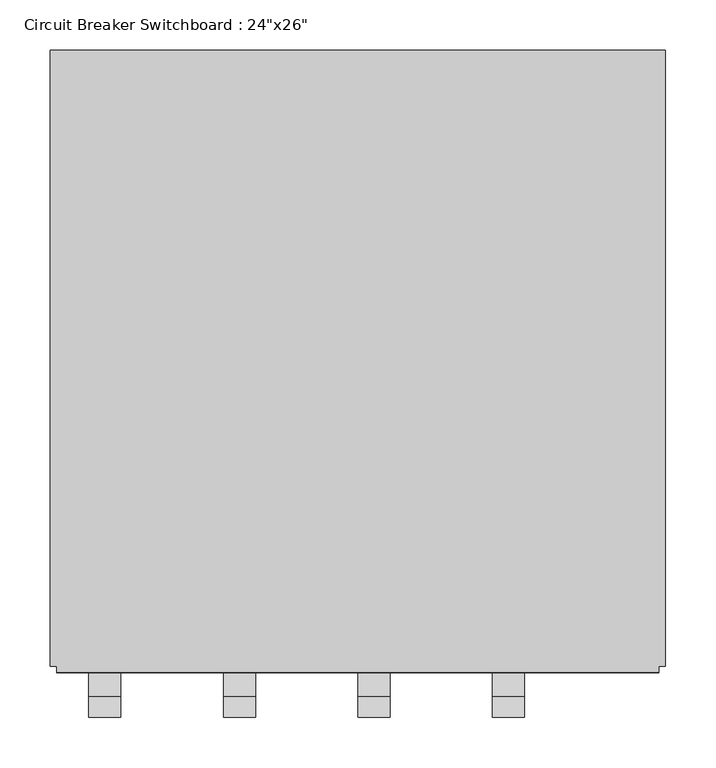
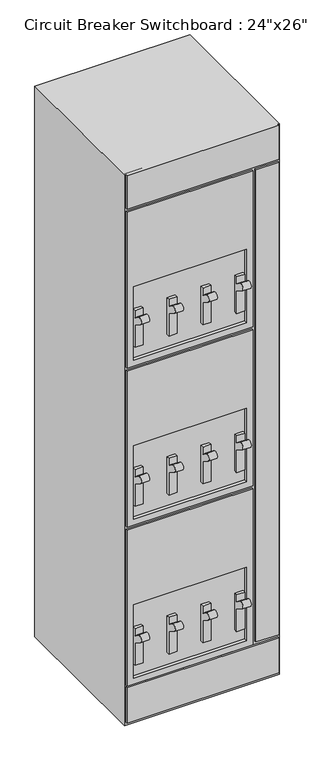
"""IFC4 building model written with IfcOpenShell, lengths in millimetres: proxy geometry."""

from ifc_helpers import new_model, si_unit, point, frame, frame_2d, origin, origin_with_axes, place, context, project, spatial, polyline, circle_curve, trimmed, segment, composite_curve, outline, extrude, faceted_brep, source, transform, mapped, element, save


def proxy_5f9e3781(model_context):
    return source(origin(), model_context, "Body", "SolidModel", [
        extrude(outline(composite_curve([segment(polyline([(-639.9115662, 381.1284675), (-616.1854499, 365.125), (-616.1854499, 393.7), (-603.4854499, 393.7), (-603.4854499, 241.3), (-616.1854499, 241.3), (-616.1854499, 333.375), (-654.6306098, 359.3065878)]), True, "CONTINUOUS"), segment(trimmed(circle_curve(frame_2d((-647.271088, 370.2175277)), 13.1609715), [point((-654.6306098, 359.3065878))], [point((-639.9115662, 381.1284675))], False, "CARTESIAN"), True, "CONTINUOUS")], self_intersect=False)), frame((133.35, 0.0, 0.0), z_axis=(1.0, 0.0, 0.0), x_axis=(0.0, 1.0, 0.0)), (0.0, 0.0, 1.0), 31.75),
        extrude(outline(composite_curve([segment(polyline([(-639.9115662, 381.1284675), (-616.1854499, 365.125), (-616.1854499, 393.7), (-603.4854499, 393.7), (-603.4854499, 241.3), (-616.1854499, 241.3), (-616.1854499, 333.375), (-654.6306098, 359.3065878)]), True, "CONTINUOUS"), segment(trimmed(circle_curve(frame_2d((-647.271088, 370.2175277)), 13.1609715), [point((-654.6306098, 359.3065878))], [point((-639.9115662, 381.1284675))], False, "CARTESIAN"), True, "CONTINUOUS")], self_intersect=False)), frame((0.0, 0.0, 0.0), z_axis=(1.0, 0.0, 0.0), x_axis=(0.0, 1.0, 0.0)), (0.0, 0.0, 1.0), 31.75),
        extrude(outline(composite_curve([segment(polyline([(-639.9115662, 381.1284675), (-616.1854499, 365.125), (-616.1854499, 393.7), (-603.4854499, 393.7), (-603.4854499, 241.3), (-616.1854499, 241.3), (-616.1854499, 333.375), (-654.6306098, 359.3065878)]), True, "CONTINUOUS"), segment(trimmed(circle_curve(frame_2d((-647.271088, 370.2175277)), 13.1609715), [point((-654.6306098, 359.3065878))], [point((-639.9115662, 381.1284675))], False, "CARTESIAN"), True, "CONTINUOUS")], self_intersect=False)), frame((-133.35, 0.0, 0.0), z_axis=(1.0, 0.0, 0.0), x_axis=(0.0, 1.0, 0.0)), (0.0, 0.0, 1.0), 31.75),
        extrude(outline(composite_curve([segment(polyline([(-639.9115662, 381.1284675), (-616.1854499, 365.125), (-616.1854499, 393.7), (-603.4854499, 393.7), (-603.4854499, 241.3), (-616.1854499, 241.3), (-616.1854499, 333.375), (-654.6306098, 359.3065878)]), True, "CONTINUOUS"), segment(trimmed(circle_curve(frame_2d((-647.271088, 370.2175277)), 13.1609715), [point((-654.6306098, 359.3065878))], [point((-639.9115662, 381.1284675))], False, "CARTESIAN"), True, "CONTINUOUS")], self_intersect=False)), frame((-266.7, 0.0, 0.0), z_axis=(1.0, 0.0, 0.0), x_axis=(0.0, 1.0, 0.0)), (0.0, 0.0, 1.0), 31.75),
        extrude(outline(composite_curve([segment(polyline([(-639.9115662, 1041.5284675), (-616.1854499, 1025.525), (-616.1854499, 1054.1), (-603.4854499, 1054.1), (-603.4854499, 901.7), (-616.1854499, 901.7), (-616.1854499, 993.775), (-654.6306098, 1019.7065878)]), True, "CONTINUOUS"), segment(trimmed(circle_curve(frame_2d((-647.271088, 1030.6175277)), 13.1609715), [point((-654.6306098, 1019.7065878))], [point((-639.9115662, 1041.5284675))], False, "CARTESIAN"), True, "CONTINUOUS")], self_intersect=False)), frame((133.35, 0.0, 0.0), z_axis=(1.0, 0.0, 0.0), x_axis=(0.0, 1.0, 0.0)), (0.0, 0.0, 1.0), 31.75),
        extrude(outline(composite_curve([segment(polyline([(-639.9115662, 1041.5284675), (-616.1854499, 1025.525), (-616.1854499, 1054.1), (-603.4854499, 1054.1), (-603.4854499, 901.7), (-616.1854499, 901.7), (-616.1854499, 993.775), (-654.6306098, 1019.7065878)]), True, "CONTINUOUS"), segment(trimmed(circle_curve(frame_2d((-647.271088, 1030.6175277)), 13.1609715), [point((-654.6306098, 1019.7065878))], [point((-639.9115662, 1041.5284675))], False, "CARTESIAN"), True, "CONTINUOUS")], self_intersect=False)), frame((0.0, 0.0, 0.0), z_axis=(1.0, 0.0, 0.0), x_axis=(0.0, 1.0, 0.0)), (0.0, 0.0, 1.0), 31.75),
        extrude(outline(composite_curve([segment(polyline([(-639.9115662, 1041.5284675), (-616.1854499, 1025.525), (-616.1854499, 1054.1), (-603.4854499, 1054.1), (-603.4854499, 901.7), (-616.1854499, 901.7), (-616.1854499, 993.775), (-654.6306098, 1019.7065878)]), True, "CONTINUOUS"), segment(trimmed(circle_curve(frame_2d((-647.271088, 1030.6175277)), 13.1609715), [point((-654.6306098, 1019.7065878))], [point((-639.9115662, 1041.5284675))], False, "CARTESIAN"), True, "CONTINUOUS")], self_intersect=False)), frame((-133.35, 0.0, 0.0), z_axis=(1.0, 0.0, 0.0), x_axis=(0.0, 1.0, 0.0)), (0.0, 0.0, 1.0), 31.75),
        extrude(outline(composite_curve([segment(polyline([(-639.9115662, 1041.5284675), (-616.1854499, 1025.525), (-616.1854499, 1054.1), (-603.4854499, 1054.1), (-603.4854499, 901.7), (-616.1854499, 901.7), (-616.1854499, 993.775), (-654.6306098, 1019.7065878)]), True, "CONTINUOUS"), segment(trimmed(circle_curve(frame_2d((-647.271088, 1030.6175277)), 13.1609715), [point((-654.6306098, 1019.7065878))], [point((-639.9115662, 1041.5284675))], False, "CARTESIAN"), True, "CONTINUOUS")], self_intersect=False)), frame((-266.7, 0.0, 0.0), z_axis=(1.0, 0.0, 0.0), x_axis=(0.0, 1.0, 0.0)), (0.0, 0.0, 1.0), 31.75),
        extrude(outline(composite_curve([segment(polyline([(-639.9115662, 1701.9284675), (-616.1854499, 1685.925), (-616.1854499, 1714.5), (-603.4854499, 1714.5), (-603.4854499, 1562.1), (-616.1854499, 1562.1), (-616.1854499, 1654.175), (-654.6306098, 1680.1065878)]), True, "CONTINUOUS"), segment(trimmed(circle_curve(frame_2d((-647.271088, 1691.0175277)), 13.1609715), [point((-654.6306098, 1680.1065878))], [point((-639.9115662, 1701.9284675))], False, "CARTESIAN"), True, "CONTINUOUS")], self_intersect=False)), frame((133.35, 0.0, 0.0), z_axis=(1.0, 0.0, 0.0), x_axis=(0.0, 1.0, 0.0)), (0.0, 0.0, 1.0), 31.75),
        extrude(outline(composite_curve([segment(polyline([(-639.9115662, 1701.9284675), (-616.1854499, 1685.925), (-616.1854499, 1714.5), (-603.4854499, 1714.5), (-603.4854499, 1562.1), (-616.1854499, 1562.1), (-616.1854499, 1654.175), (-654.6306098, 1680.1065878)]), True, "CONTINUOUS"), segment(trimmed(circle_curve(frame_2d((-647.271088, 1691.0175277)), 13.1609715), [point((-654.6306098, 1680.1065878))], [point((-639.9115662, 1701.9284675))], False, "CARTESIAN"), True, "CONTINUOUS")], self_intersect=False)), frame((0.0, 0.0, 0.0), z_axis=(1.0, 0.0, 0.0), x_axis=(0.0, 1.0, 0.0)), (0.0, 0.0, 1.0), 31.75),
        extrude(outline(composite_curve([segment(polyline([(-639.9115662, 1701.9284675), (-616.1854499, 1685.925), (-616.1854499, 1714.5), (-603.4854499, 1714.5), (-603.4854499, 1562.1), (-616.1854499, 1562.1), (-616.1854499, 1654.175), (-654.6306098, 1680.1065878)]), True, "CONTINUOUS"), segment(trimmed(circle_curve(frame_2d((-647.271088, 1691.0175277)), 13.1609715), [point((-654.6306098, 1680.1065878))], [point((-639.9115662, 1701.9284675))], False, "CARTESIAN"), True, "CONTINUOUS")], self_intersect=False)), frame((-133.35, 0.0, 0.0), z_axis=(1.0, 0.0, 0.0), x_axis=(0.0, 1.0, 0.0)), (0.0, 0.0, 1.0), 31.75),
        extrude(outline(composite_curve([segment(polyline([(-639.9115662, 1701.9284675), (-616.1854499, 1685.925), (-616.1854499, 1714.5), (-603.4854499, 1714.5), (-603.4854499, 1562.1), (-616.1854499, 1562.1), (-616.1854499, 1654.175), (-654.6306098, 1680.1065878)]), True, "CONTINUOUS"), segment(trimmed(circle_curve(frame_2d((-647.271088, 1691.0175277)), 13.1609715), [point((-654.6306098, 1680.1065878))], [point((-639.9115662, 1701.9284675))], False, "CARTESIAN"), True, "CONTINUOUS")], self_intersect=False)), frame((-266.7, 0.0, 0.0), z_axis=(1.0, 0.0, 0.0), x_axis=(0.0, 1.0, 0.0)), (0.0, 0.0, 1.0), 31.75),
        faceted_brep([(-304.8, -609.8354499, 2286.0), (-304.8, -609.8354499, 0.0), (304.8, -609.8354499, 0.0), (304.8, -609.8354499, 2286.0), (298.45, -609.8354499, 2286.0), (298.45, -609.8354499, 2146.3), (-298.45, -609.8354499, 2146.3), (-298.45, -609.8354499, 2286.0), (-298.45, -609.8354499, 812.8), (196.85, -609.8354499, 812.8), (196.85, -609.8354499, 165.1), (-298.45, -609.8354499, 165.1), (-298.45, -609.8354499, 1473.2), (196.85, -609.8354499, 1473.2), (196.85, -609.8354499, 825.5), (-298.45, -609.8354499, 825.5), (-298.45, -609.8354499, 2133.6), (196.85, -609.8354499, 2133.6), (196.85, -609.8354499, 1485.9), (-298.45, -609.8354499, 1485.9), (209.55, -609.8354499, 2133.6), (298.45, -609.8354499, 2133.6), (298.45, -609.8354499, 171.45), (209.55, -609.8354499, 171.45), (-298.45, -609.8354499, 158.75), (298.45, -609.8354499, 158.75), (298.45, -609.8354499, 12.7), (-298.45, -609.8354499, 12.7), (304.8, 0.0, 2286.0), (304.8, 0.0, 0.0), (-304.8, 0.0, 0.0), (-304.8, 0.0, 2286.0), (-298.45, -616.1854499, 2286.0), (298.45, -616.1854499, 2286.0), (171.45, -603.4854499, 1816.1), (-273.05, -603.4854499, 1816.1), (-273.05, -603.4854499, 1511.3), (171.45, -603.4854499, 1511.3), (171.45, -616.1854499, 1816.1), (-273.05, -616.1854499, 1816.1), (-273.05, -616.1854499, 1511.3), (171.45, -616.1854499, 1511.3), (171.45, -603.4854499, 1155.7), (-273.05, -603.4854499, 1155.7), (-273.05, -603.4854499, 850.9), (171.45, -603.4854499, 850.9), (171.45, -616.1854499, 1155.7), (-273.05, -616.1854499, 1155.7), (-273.05, -616.1854499, 850.9), (171.45, -616.1854499, 850.9), (196.85, -616.1854499, 812.8), (-298.45, -616.1854499, 812.8), (-298.45, -616.1854499, 165.1), (196.85, -616.1854499, 165.1), (-273.05, -616.1854499, 495.3), (171.45, -616.1854499, 495.3), (171.45, -616.1854499, 190.5), (-273.05, -616.1854499, 190.5), (171.45, -603.4854499, 495.3), (-273.05, -603.4854499, 495.3), (-273.05, -603.4854499, 190.5), (171.45, -603.4854499, 190.5), (196.85, -616.1854499, 1473.2), (-298.45, -616.1854499, 1473.2), (-298.45, -616.1854499, 825.5), (196.85, -616.1854499, 825.5), (196.85, -616.1854499, 2133.6), (-298.45, -616.1854499, 2133.6), (-298.45, -616.1854499, 1485.9), (196.85, -616.1854499, 1485.9), (-298.45, -616.1854499, 2146.3), (298.45, -616.1854499, 2146.3), (298.45, -616.1854499, 2133.6), (209.55, -616.1854499, 2133.6), (209.55, -616.1854499, 171.45), (298.45, -616.1854499, 171.45), (298.45, -616.1854499, 158.75), (-298.45, -616.1854499, 158.75), (-298.45, -616.1854499, 12.7), (298.45, -616.1854499, 12.7)], [[[0, 1, 2, 3, 4, 5, 6, 7], [8, 9, 10, 11], [12, 13, 14, 15], [16, 17, 18, 19], [20, 21, 22, 23], [24, 25, 26, 27]], [[28, 29, 30, 31]], [[28, 31, 0, 7, 32, 33, 4, 3]], [[1, 0, 31, 30]], [[2, 1, 30, 29]], [[3, 2, 29, 28]], [[34, 35, 36, 37]], [[35, 34, 38, 39]], [[36, 35, 39, 40]], [[37, 36, 40, 41]], [[34, 37, 41, 38]], [[42, 43, 44, 45]], [[43, 42, 46, 47]], [[44, 43, 47, 48]], [[45, 44, 48, 49]], [[42, 45, 49, 46]], [[50, 51, 52, 53], [54, 55, 56, 57]], [[51, 50, 9, 8]], [[52, 51, 8, 11]], [[53, 52, 11, 10]], [[50, 53, 10, 9]], [[58, 59, 60, 61]], [[59, 58, 55, 54]], [[60, 59, 54, 57]], [[61, 60, 57, 56]], [[58, 61, 56, 55]], [[62, 63, 64, 65], [47, 46, 49, 48]], [[63, 62, 13, 12]], [[64, 63, 12, 15]], [[65, 64, 15, 14]], [[62, 65, 14, 13]], [[66, 67, 68, 69], [39, 38, 41, 40]], [[67, 66, 17, 16]], [[68, 67, 16, 19]], [[69, 68, 19, 18]], [[66, 69, 18, 17]], [[33, 32, 70, 71]], [[70, 32, 7, 6]], [[71, 70, 6, 5]], [[33, 71, 5, 4]], [[72, 73, 74, 75]], [[73, 72, 21, 20]], [[74, 73, 20, 23]], [[75, 74, 23, 22]], [[72, 75, 22, 21]], [[76, 77, 78, 79]], [[77, 76, 25, 24]], [[78, 77, 24, 27]], [[79, 78, 27, 26]], [[76, 79, 26, 25]]]),
        extrude(outline(polyline([(304.8, 0.0), (304.8, -603.4854499), (-304.8, -603.4854499), (-304.8, 0.0), (304.8, 0.0)])), origin_with_axes(), (0.0, 0.0, 1.0), 2286.0),
    ])


if __name__ == "__main__":
    model = new_model("IFC4")
    model_context = context("Model", 3, world=origin())
    ifc_project = project(units=[si_unit("LENGTHUNIT", "METRE", prefix="MILLI")], contexts=[model_context])
    site = spatial("IfcSite", under=ifc_project)
    building = spatial("IfcBuilding", under=site)
    placement = place(None, origin())
    proxy_shape = proxy_5f9e3781(model_context)
    element("IfcBuildingElementProxy", 1, Name="Circuit Breaker Switchboard : 24\"x26\"", ObjectType="Circuit Breaker Switchboard : 24\"x26\"", at=placement, inside=building, context=model_context, shape_type="MappedRepresentation", body=[
        mapped(proxy_shape, transform((0.0, 0.0, 0.0), x_axis=(1.0, 0.0, 0.0), y_axis=(0.0, 1.0, 0.0), z_axis=(0.0, 0.0, 1.0))),
    ])
    save(model, "model.ifc")
